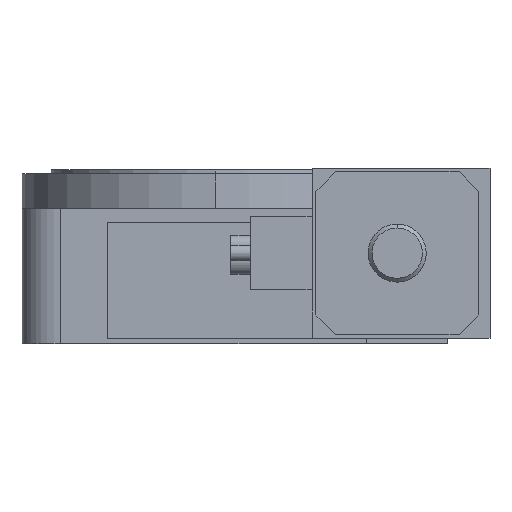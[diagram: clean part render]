
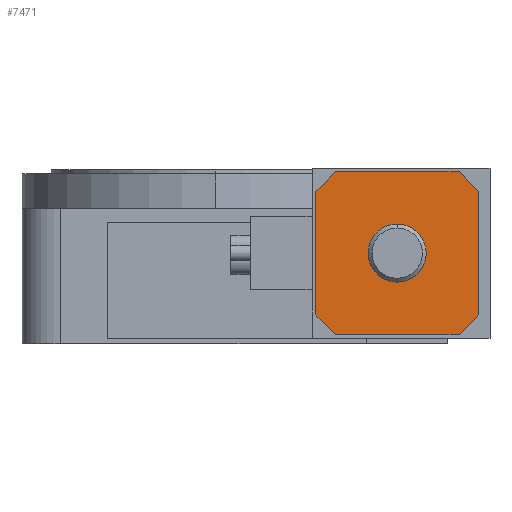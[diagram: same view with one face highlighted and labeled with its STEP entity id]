
A CAD part, left-side view. The second image highlights one B-rep face of the part: STEP entity #7471.
In plain terms, the highlighted planar face has unit normal (-1, 0, 0).
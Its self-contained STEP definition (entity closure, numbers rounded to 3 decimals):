
#348 = CARTESIAN_POINT ( 'NONE',  ( -110., -63., 44.5 ) ) ;
#379 = FACE_BOUND ( 'NONE', #8314, .T. ) ;
#460 = LINE ( 'NONE', #3060, #10641 ) ;
#502 = CARTESIAN_POINT ( 'NONE',  ( -110., -68., 7.5 ) ) ;
#948 = CARTESIAN_POINT ( 'NONE',  ( -110., -26., 2.5 ) ) ;
#1285 = FACE_OUTER_BOUND ( 'NONE', #1514, .T. ) ;
#1308 = CARTESIAN_POINT ( 'NONE',  ( -110., -47., 23.5 ) ) ;
#1511 = DIRECTION ( 'NONE',  ( 0., 0., -1. ) ) ;
#1514 = EDGE_LOOP ( 'NONE', ( #3350, #2690, #8879, #10841, #4124, #5878, #9395, #9807 ) ) ;
#1613 = VECTOR ( 'NONE', #6947, 1000. ) ;
#2089 = CARTESIAN_POINT ( 'NONE',  ( -110., -31., 44.5 ) ) ;
#2394 = EDGE_CURVE ( 'NONE', #14600, #10353, #460, .T. ) ;
#2643 = CARTESIAN_POINT ( 'NONE',  ( -110., -63., 44.5 ) ) ;
#2690 = ORIENTED_EDGE ( 'NONE', *, *, #6166, .T. ) ;
#2788 = VECTOR ( 'NONE', #11915, 1000. ) ;
#2837 = DIRECTION ( 'NONE',  ( 0., -0.707, 0.707 ) ) ;
#3060 = CARTESIAN_POINT ( 'NONE',  ( -110., -31., 2.5 ) ) ;
#3350 = ORIENTED_EDGE ( 'NONE', *, *, #2394, .T. ) ;
#3683 = CARTESIAN_POINT ( 'NONE',  ( -110., -47., 21. ) ) ;
#3697 = DIRECTION ( 'NONE',  ( 0., 0., -1. ) ) ;
#3793 = CARTESIAN_POINT ( 'NONE',  ( -110., -26., 39.5 ) ) ;
#4124 = ORIENTED_EDGE ( 'NONE', *, *, #13346, .T. ) ;
#4292 = DIRECTION ( 'NONE',  ( 0., -0.707, -0.707 ) ) ;
#4368 = CARTESIAN_POINT ( 'NONE',  ( -110., -68., 39.5 ) ) ;
#4459 = CARTESIAN_POINT ( 'NONE',  ( -110., -68., 2.5 ) ) ;
#4469 = PLANE ( 'NONE',  #9684 ) ;
#4820 = CARTESIAN_POINT ( 'NONE',  ( -110., -47., 26. ) ) ;
#5110 = CARTESIAN_POINT ( 'NONE',  ( -110., -68., 7.5 ) ) ;
#5164 = ORIENTED_EDGE ( 'NONE', *, *, #13764, .T. ) ;
#5231 = CARTESIAN_POINT ( 'NONE',  ( -110., -26., 39.5 ) ) ;
#5371 = VECTOR ( 'NONE', #1511, 1000. ) ;
#5445 = LINE ( 'NONE', #948, #9427 ) ;
#5545 = VERTEX_POINT ( 'NONE', #3793 ) ;
#5878 = ORIENTED_EDGE ( 'NONE', *, *, #7965, .T. ) ;
#6166 = EDGE_CURVE ( 'NONE', #10353, #8415, #5445, .T. ) ;
#6367 = VECTOR ( 'NONE', #6432, 1000. ) ;
#6432 = DIRECTION ( 'NONE',  ( 0., 0.707, -0.707 ) ) ;
#6685 = LINE ( 'NONE', #502, #13245 ) ;
#6947 = DIRECTION ( 'NONE',  ( 0., 1., 0. ) ) ;
#7142 = DIRECTION ( 'NONE',  ( 1., 0., 0. ) ) ;
#7163 = EDGE_CURVE ( 'NONE', #10467, #9751, #8946, .T. ) ;
#7316 = EDGE_CURVE ( 'NONE', #14497, #5545, #11664, .T. ) ;
#7471 = ADVANCED_FACE ( 'NONE', ( #379, #1285 ), #4469, .T. ) ;
#7965 = EDGE_CURVE ( 'NONE', #12509, #14497, #10376, .T. ) ;
#8205 = VERTEX_POINT ( 'NONE', #5110 ) ;
#8224 = DIRECTION ( 'NONE',  ( 1., 0., 0. ) ) ;
#8314 = EDGE_LOOP ( 'NONE', ( #10058, #5164 ) ) ;
#8355 = EDGE_CURVE ( 'NONE', #8205, #9484, #9266, .T. ) ;
#8415 = VERTEX_POINT ( 'NONE', #11562 ) ;
#8879 = ORIENTED_EDGE ( 'NONE', *, *, #9237, .T. ) ;
#8946 = CIRCLE ( 'NONE', #10358, 2.5 ) ;
#9006 = LINE ( 'NONE', #348, #2788 ) ;
#9237 = EDGE_CURVE ( 'NONE', #8415, #8205, #6685, .T. ) ;
#9266 = LINE ( 'NONE', #4459, #12564 ) ;
#9395 = ORIENTED_EDGE ( 'NONE', *, *, #7316, .T. ) ;
#9427 = VECTOR ( 'NONE', #12701, 1000. ) ;
#9484 = VERTEX_POINT ( 'NONE', #4368 ) ;
#9684 = AXIS2_PLACEMENT_3D ( 'NONE', #11331, #12464, #14907 ) ;
#9751 = VERTEX_POINT ( 'NONE', #4820 ) ;
#9807 = ORIENTED_EDGE ( 'NONE', *, *, #12596, .T. ) ;
#9833 = AXIS2_PLACEMENT_3D ( 'NONE', #10656, #7142, #3697 ) ;
#10058 = ORIENTED_EDGE ( 'NONE', *, *, #7163, .T. ) ;
#10353 = VERTEX_POINT ( 'NONE', #12277 ) ;
#10358 = AXIS2_PLACEMENT_3D ( 'NONE', #1308, #8224, #11748 ) ;
#10376 = LINE ( 'NONE', #13446, #1613 ) ;
#10467 = VERTEX_POINT ( 'NONE', #3683 ) ;
#10641 = VECTOR ( 'NONE', #4292, 1000. ) ;
#10656 = CARTESIAN_POINT ( 'NONE',  ( -110., -47., 23.5 ) ) ;
#10841 = ORIENTED_EDGE ( 'NONE', *, *, #8355, .T. ) ;
#11331 = CARTESIAN_POINT ( 'NONE',  ( -110., -26., 2.5 ) ) ;
#11508 = DIRECTION ( 'NONE',  ( 0., 0., 1. ) ) ;
#11562 = CARTESIAN_POINT ( 'NONE',  ( -110., -63., 2.5 ) ) ;
#11664 = LINE ( 'NONE', #5231, #6367 ) ;
#11748 = DIRECTION ( 'NONE',  ( 0., 0., -1. ) ) ;
#11915 = DIRECTION ( 'NONE',  ( 0., 0.707, 0.707 ) ) ;
#12208 = CARTESIAN_POINT ( 'NONE',  ( -110., -26., 2.5 ) ) ;
#12277 = CARTESIAN_POINT ( 'NONE',  ( -110., -31., 2.5 ) ) ;
#12464 = DIRECTION ( 'NONE',  ( -1., 0., 0. ) ) ;
#12509 = VERTEX_POINT ( 'NONE', #2643 ) ;
#12564 = VECTOR ( 'NONE', #11508, 1000. ) ;
#12596 = EDGE_CURVE ( 'NONE', #5545, #14600, #14855, .T. ) ;
#12701 = DIRECTION ( 'NONE',  ( 0., -1., 0. ) ) ;
#13245 = VECTOR ( 'NONE', #2837, 1000. ) ;
#13346 = EDGE_CURVE ( 'NONE', #9484, #12509, #9006, .T. ) ;
#13446 = CARTESIAN_POINT ( 'NONE',  ( -110., -26., 44.5 ) ) ;
#13534 = CIRCLE ( 'NONE', #9833, 2.5 ) ;
#13764 = EDGE_CURVE ( 'NONE', #9751, #10467, #13534, .T. ) ;
#14497 = VERTEX_POINT ( 'NONE', #2089 ) ;
#14502 = CARTESIAN_POINT ( 'NONE',  ( -110., -26., 7.5 ) ) ;
#14600 = VERTEX_POINT ( 'NONE', #14502 ) ;
#14855 = LINE ( 'NONE', #12208, #5371 ) ;
#14907 = DIRECTION ( 'NONE',  ( 0., 0., 1. ) ) ;
